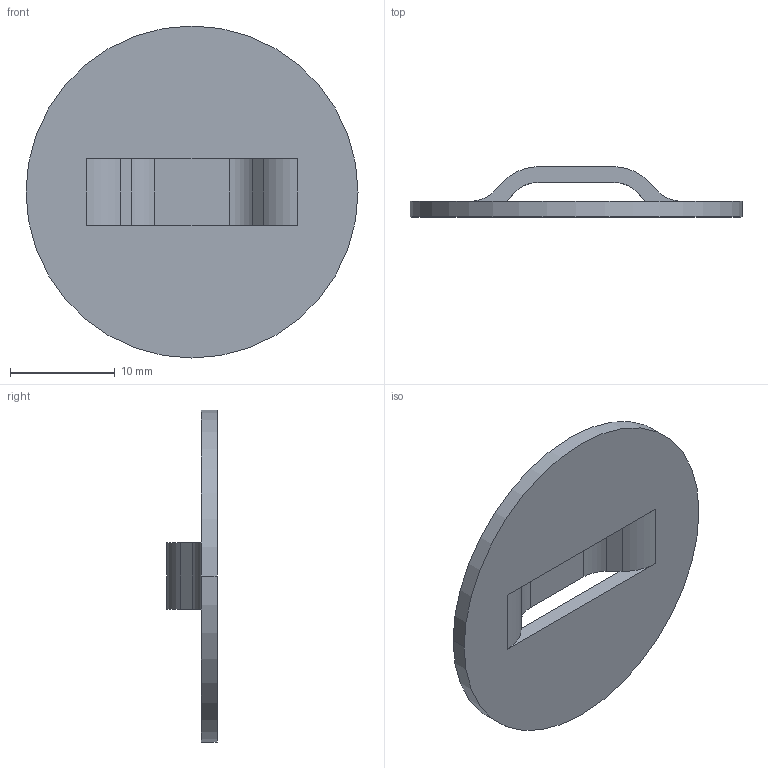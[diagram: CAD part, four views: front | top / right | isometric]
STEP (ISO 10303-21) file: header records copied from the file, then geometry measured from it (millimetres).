
FILE_DESCRIPTION (( 'STEP AP203' ), '1' );
FILE_NAME ('1000774-10 -BRIDGE LANCE SGL .285X.25WX.071H .06MAT-.STEP', '2024-11-18T17:19:46', ( '' ), ( '' ), 'SwSTEP 2.0', 'SolidWorks 2024', '' );
FILE_SCHEMA (( 'CONFIG_CONTROL_DESIGN' ));
Length unit declared in the file: inch
Products named in the file (1): 1000774-10 -BRIDGE LANCE SGL .285X.25WX.071H .06MAT-
Bounding box: 31.75 x 4.8 x 31.75 mm (x, y, z)
Volume: 1206.3 mm3; surface area: 1858.3 mm2
Topology: 1 solids, 1 shells, 22 faces, 62 edges, 40 vertices
Faces by surface type: plane 12, cylinder 10
Entity records: 801 total; most frequent: DIRECTION 128, CARTESIAN_POINT 125, ORIENTED_EDGE 124, EDGE_CURVE 62, AXIS2_PLACEMENT_3D 43, VECTOR 42, LINE 42, VERTEX_POINT 40
